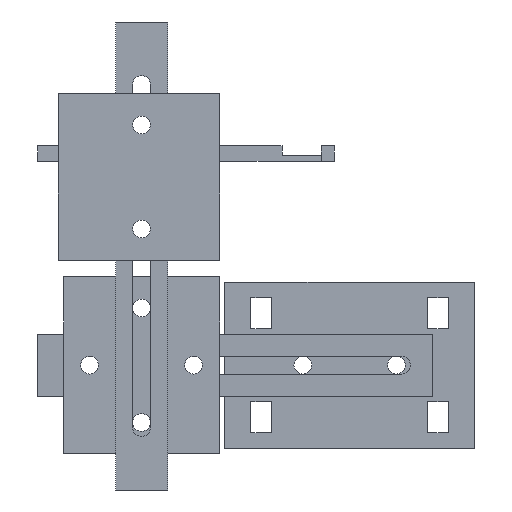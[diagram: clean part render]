
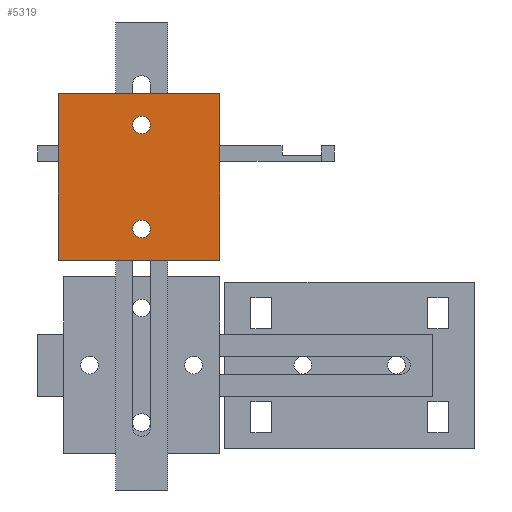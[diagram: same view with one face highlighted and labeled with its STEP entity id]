
A CAD part, front view. The second image highlights one B-rep face of the part: STEP entity #5319.
In plain terms, the highlighted planar face has unit normal (0, -1, 0).
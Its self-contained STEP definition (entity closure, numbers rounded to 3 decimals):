
#5203 = EDGE_CURVE('',#5204,#5206,#5208,.T.);
#5204 = VERTEX_POINT('',#5205);
#5205 = CARTESIAN_POINT('',(-25.,-13.5,-23.8));
#5206 = VERTEX_POINT('',#5207);
#5207 = CARTESIAN_POINT('',(-25.,-13.5,8.2));
#5208 = SURFACE_CURVE('',#5209,(#5213,#5225),.PCURVE_S1.);
#5209 = LINE('',#5210,#5211);
#5210 = CARTESIAN_POINT('',(-25.,-13.5,-23.8));
#5211 = VECTOR('',#5212,1.);
#5212 = DIRECTION('',(0.,0.,1.));
#5213 = PCURVE('',#5214,#5219);
#5214 = PLANE('',#5215);
#5215 = AXIS2_PLACEMENT_3D('',#5216,#5217,#5218);
#5216 = CARTESIAN_POINT('',(-25.,-13.5,-23.8));
#5217 = DIRECTION('',(-1.,-0.,0.));
#5218 = DIRECTION('',(0.,0.,-1.));
#5219 = DEFINITIONAL_REPRESENTATION('',(#5220),#5224);
#5220 = LINE('',#5221,#5222);
#5221 = CARTESIAN_POINT('',(-0.,-0.));
#5222 = VECTOR('',#5223,1.);
#5223 = DIRECTION('',(-1.,-0.));
#5224 = ( GEOMETRIC_REPRESENTATION_CONTEXT(2) 
PARAMETRIC_REPRESENTATION_CONTEXT() REPRESENTATION_CONTEXT('2D SPACE',''
  ) );
#5225 = PCURVE('',#5226,#5231);
#5226 = PLANE('',#5227);
#5227 = AXIS2_PLACEMENT_3D('',#5228,#5229,#5230);
#5228 = CARTESIAN_POINT('',(-25.,-13.5,-23.8));
#5229 = DIRECTION('',(-0.,1.,-0.));
#5230 = DIRECTION('',(0.,0.,-1.));
#5231 = DEFINITIONAL_REPRESENTATION('',(#5232),#5236);
#5232 = LINE('',#5233,#5234);
#5233 = CARTESIAN_POINT('',(-0.,-0.));
#5234 = VECTOR('',#5235,1.);
#5235 = DIRECTION('',(-1.,-0.));
#5236 = ( GEOMETRIC_REPRESENTATION_CONTEXT(2) 
PARAMETRIC_REPRESENTATION_CONTEXT() REPRESENTATION_CONTEXT('2D SPACE',''
  ) );
#5254 = PLANE('',#5255);
#5255 = AXIS2_PLACEMENT_3D('',#5256,#5257,#5258);
#5256 = CARTESIAN_POINT('',(-25.,-13.5,-23.8));
#5257 = DIRECTION('',(0.,0.,1.));
#5258 = DIRECTION('',(1.,0.,0.));
#5308 = PLANE('',#5309);
#5309 = AXIS2_PLACEMENT_3D('',#5310,#5311,#5312);
#5310 = CARTESIAN_POINT('',(-25.,-13.5,8.2));
#5311 = DIRECTION('',(0.,0.,1.));
#5312 = DIRECTION('',(1.,0.,0.));
#5319 = ADVANCED_FACE('',(#5320,#5395,#5430),#5226,.F.);
#5320 = FACE_BOUND('',#5321,.T.);
#5321 = EDGE_LOOP('',(#5322,#5352,#5373,#5374));
#5322 = ORIENTED_EDGE('',*,*,#5323,.F.);
#5323 = EDGE_CURVE('',#5324,#5326,#5328,.T.);
#5324 = VERTEX_POINT('',#5325);
#5325 = CARTESIAN_POINT('',(-56.,-13.5,-23.8));
#5326 = VERTEX_POINT('',#5327);
#5327 = CARTESIAN_POINT('',(-56.,-13.5,8.2));
#5328 = SURFACE_CURVE('',#5329,(#5333,#5340),.PCURVE_S1.);
#5329 = LINE('',#5330,#5331);
#5330 = CARTESIAN_POINT('',(-56.,-13.5,-23.8));
#5331 = VECTOR('',#5332,1.);
#5332 = DIRECTION('',(-0.,-0.,1.));
#5333 = PCURVE('',#5226,#5334);
#5334 = DEFINITIONAL_REPRESENTATION('',(#5335),#5339);
#5335 = LINE('',#5336,#5337);
#5336 = CARTESIAN_POINT('',(-0.,31.));
#5337 = VECTOR('',#5338,1.);
#5338 = DIRECTION('',(-1.,0.));
#5339 = ( GEOMETRIC_REPRESENTATION_CONTEXT(2) 
PARAMETRIC_REPRESENTATION_CONTEXT() REPRESENTATION_CONTEXT('2D SPACE',''
  ) );
#5340 = PCURVE('',#5341,#5346);
#5341 = PLANE('',#5342);
#5342 = AXIS2_PLACEMENT_3D('',#5343,#5344,#5345);
#5343 = CARTESIAN_POINT('',(-56.,-13.5,-23.8));
#5344 = DIRECTION('',(-1.,-0.,-0.));
#5345 = DIRECTION('',(0.,0.,-1.));
#5346 = DEFINITIONAL_REPRESENTATION('',(#5347),#5351);
#5347 = LINE('',#5348,#5349);
#5348 = CARTESIAN_POINT('',(-0.,-0.));
#5349 = VECTOR('',#5350,1.);
#5350 = DIRECTION('',(-1.,-0.));
#5351 = ( GEOMETRIC_REPRESENTATION_CONTEXT(2) 
PARAMETRIC_REPRESENTATION_CONTEXT() REPRESENTATION_CONTEXT('2D SPACE',''
  ) );
#5352 = ORIENTED_EDGE('',*,*,#5353,.F.);
#5353 = EDGE_CURVE('',#5204,#5324,#5354,.T.);
#5354 = SURFACE_CURVE('',#5355,(#5359,#5366),.PCURVE_S1.);
#5355 = LINE('',#5356,#5357);
#5356 = CARTESIAN_POINT('',(-25.,-13.5,-23.8));
#5357 = VECTOR('',#5358,1.);
#5358 = DIRECTION('',(-1.,-0.,0.));
#5359 = PCURVE('',#5226,#5360);
#5360 = DEFINITIONAL_REPRESENTATION('',(#5361),#5365);
#5361 = LINE('',#5362,#5363);
#5362 = CARTESIAN_POINT('',(-0.,-0.));
#5363 = VECTOR('',#5364,1.);
#5364 = DIRECTION('',(-0.,1.));
#5365 = ( GEOMETRIC_REPRESENTATION_CONTEXT(2) 
PARAMETRIC_REPRESENTATION_CONTEXT() REPRESENTATION_CONTEXT('2D SPACE',''
  ) );
#5366 = PCURVE('',#5254,#5367);
#5367 = DEFINITIONAL_REPRESENTATION('',(#5368),#5372);
#5368 = LINE('',#5369,#5370);
#5369 = CARTESIAN_POINT('',(0.,-0.));
#5370 = VECTOR('',#5371,1.);
#5371 = DIRECTION('',(-1.,0.));
#5372 = ( GEOMETRIC_REPRESENTATION_CONTEXT(2) 
PARAMETRIC_REPRESENTATION_CONTEXT() REPRESENTATION_CONTEXT('2D SPACE',''
  ) );
#5373 = ORIENTED_EDGE('',*,*,#5203,.T.);
#5374 = ORIENTED_EDGE('',*,*,#5375,.T.);
#5375 = EDGE_CURVE('',#5206,#5326,#5376,.T.);
#5376 = SURFACE_CURVE('',#5377,(#5381,#5388),.PCURVE_S1.);
#5377 = LINE('',#5378,#5379);
#5378 = CARTESIAN_POINT('',(-25.,-13.5,8.2));
#5379 = VECTOR('',#5380,1.);
#5380 = DIRECTION('',(-1.,-0.,0.));
#5381 = PCURVE('',#5226,#5382);
#5382 = DEFINITIONAL_REPRESENTATION('',(#5383),#5387);
#5383 = LINE('',#5384,#5385);
#5384 = CARTESIAN_POINT('',(-32.,-0.));
#5385 = VECTOR('',#5386,1.);
#5386 = DIRECTION('',(-0.,1.));
#5387 = ( GEOMETRIC_REPRESENTATION_CONTEXT(2) 
PARAMETRIC_REPRESENTATION_CONTEXT() REPRESENTATION_CONTEXT('2D SPACE',''
  ) );
#5388 = PCURVE('',#5308,#5389);
#5389 = DEFINITIONAL_REPRESENTATION('',(#5390),#5394);
#5390 = LINE('',#5391,#5392);
#5391 = CARTESIAN_POINT('',(0.,-0.));
#5392 = VECTOR('',#5393,1.);
#5393 = DIRECTION('',(-1.,0.));
#5394 = ( GEOMETRIC_REPRESENTATION_CONTEXT(2) 
PARAMETRIC_REPRESENTATION_CONTEXT() REPRESENTATION_CONTEXT('2D SPACE',''
  ) );
#5395 = FACE_BOUND('',#5396,.T.);
#5396 = EDGE_LOOP('',(#5397));
#5397 = ORIENTED_EDGE('',*,*,#5398,.F.);
#5398 = EDGE_CURVE('',#5399,#5399,#5401,.T.);
#5399 = VERTEX_POINT('',#5400);
#5400 = CARTESIAN_POINT('',(-40.,-13.5,-16.1));
#5401 = SURFACE_CURVE('',#5402,(#5407,#5418),.PCURVE_S1.);
#5402 = CIRCLE('',#5403,1.7);
#5403 = AXIS2_PLACEMENT_3D('',#5404,#5405,#5406);
#5404 = CARTESIAN_POINT('',(-40.,-13.5,-17.8));
#5405 = DIRECTION('',(0.,-1.,0.));
#5406 = DIRECTION('',(-0.,-0.,1.));
#5407 = PCURVE('',#5226,#5408);
#5408 = DEFINITIONAL_REPRESENTATION('',(#5409),#5417);
#5409 = ( BOUNDED_CURVE() B_SPLINE_CURVE(2,(#5410,#5411,#5412,#5413,
#5414,#5415,#5416),.UNSPECIFIED.,.T.,.F.) B_SPLINE_CURVE_WITH_KNOTS((1,2
    ,2,2,2,1),(-2.094,0.,2.094,4.189,
6.283,8.378),.UNSPECIFIED.) CURVE() 
GEOMETRIC_REPRESENTATION_ITEM() RATIONAL_B_SPLINE_CURVE((1.,0.5,1.,0.5,
1.,0.5,1.)) REPRESENTATION_ITEM('') );
#5410 = CARTESIAN_POINT('',(-7.7,15.));
#5411 = CARTESIAN_POINT('',(-7.7,17.944));
#5412 = CARTESIAN_POINT('',(-5.15,16.472));
#5413 = CARTESIAN_POINT('',(-2.6,15.));
#5414 = CARTESIAN_POINT('',(-5.15,13.528));
#5415 = CARTESIAN_POINT('',(-7.7,12.056));
#5416 = CARTESIAN_POINT('',(-7.7,15.));
#5417 = ( GEOMETRIC_REPRESENTATION_CONTEXT(2) 
PARAMETRIC_REPRESENTATION_CONTEXT() REPRESENTATION_CONTEXT('2D SPACE',''
  ) );
#5418 = PCURVE('',#5419,#5424);
#5419 = CYLINDRICAL_SURFACE('',#5420,1.7);
#5420 = AXIS2_PLACEMENT_3D('',#5421,#5422,#5423);
#5421 = CARTESIAN_POINT('',(-40.,-14.5,-17.8));
#5422 = DIRECTION('',(-0.,1.,-0.));
#5423 = DIRECTION('',(-0.,-0.,1.));
#5424 = DEFINITIONAL_REPRESENTATION('',(#5425),#5429);
#5425 = LINE('',#5426,#5427);
#5426 = CARTESIAN_POINT('',(-0.,1.));
#5427 = VECTOR('',#5428,1.);
#5428 = DIRECTION('',(-1.,0.));
#5429 = ( GEOMETRIC_REPRESENTATION_CONTEXT(2) 
PARAMETRIC_REPRESENTATION_CONTEXT() REPRESENTATION_CONTEXT('2D SPACE',''
  ) );
#5430 = FACE_BOUND('',#5431,.T.);
#5431 = EDGE_LOOP('',(#5432));
#5432 = ORIENTED_EDGE('',*,*,#5433,.F.);
#5433 = EDGE_CURVE('',#5434,#5434,#5436,.T.);
#5434 = VERTEX_POINT('',#5435);
#5435 = CARTESIAN_POINT('',(-40.,-13.5,3.9));
#5436 = SURFACE_CURVE('',#5437,(#5442,#5453),.PCURVE_S1.);
#5437 = CIRCLE('',#5438,1.7);
#5438 = AXIS2_PLACEMENT_3D('',#5439,#5440,#5441);
#5439 = CARTESIAN_POINT('',(-40.,-13.5,2.2));
#5440 = DIRECTION('',(0.,-1.,0.));
#5441 = DIRECTION('',(-0.,-0.,1.));
#5442 = PCURVE('',#5226,#5443);
#5443 = DEFINITIONAL_REPRESENTATION('',(#5444),#5452);
#5444 = ( BOUNDED_CURVE() B_SPLINE_CURVE(2,(#5445,#5446,#5447,#5448,
#5449,#5450,#5451),.UNSPECIFIED.,.T.,.F.) B_SPLINE_CURVE_WITH_KNOTS((1,2
    ,2,2,2,1),(-2.094,0.,2.094,4.189,
6.283,8.378),.UNSPECIFIED.) CURVE() 
GEOMETRIC_REPRESENTATION_ITEM() RATIONAL_B_SPLINE_CURVE((1.,0.5,1.,0.5,
1.,0.5,1.)) REPRESENTATION_ITEM('') );
#5445 = CARTESIAN_POINT('',(-27.7,15.));
#5446 = CARTESIAN_POINT('',(-27.7,17.944));
#5447 = CARTESIAN_POINT('',(-25.15,16.472));
#5448 = CARTESIAN_POINT('',(-22.6,15.));
#5449 = CARTESIAN_POINT('',(-25.15,13.528));
#5450 = CARTESIAN_POINT('',(-27.7,12.056));
#5451 = CARTESIAN_POINT('',(-27.7,15.));
#5452 = ( GEOMETRIC_REPRESENTATION_CONTEXT(2) 
PARAMETRIC_REPRESENTATION_CONTEXT() REPRESENTATION_CONTEXT('2D SPACE',''
  ) );
#5453 = PCURVE('',#5454,#5459);
#5454 = CYLINDRICAL_SURFACE('',#5455,1.7);
#5455 = AXIS2_PLACEMENT_3D('',#5456,#5457,#5458);
#5456 = CARTESIAN_POINT('',(-40.,-14.5,2.2));
#5457 = DIRECTION('',(-0.,1.,-0.));
#5458 = DIRECTION('',(-0.,-0.,1.));
#5459 = DEFINITIONAL_REPRESENTATION('',(#5460),#5464);
#5460 = LINE('',#5461,#5462);
#5461 = CARTESIAN_POINT('',(-0.,1.));
#5462 = VECTOR('',#5463,1.);
#5463 = DIRECTION('',(-1.,0.));
#5464 = ( GEOMETRIC_REPRESENTATION_CONTEXT(2) 
PARAMETRIC_REPRESENTATION_CONTEXT() REPRESENTATION_CONTEXT('2D SPACE',''
  ) );
